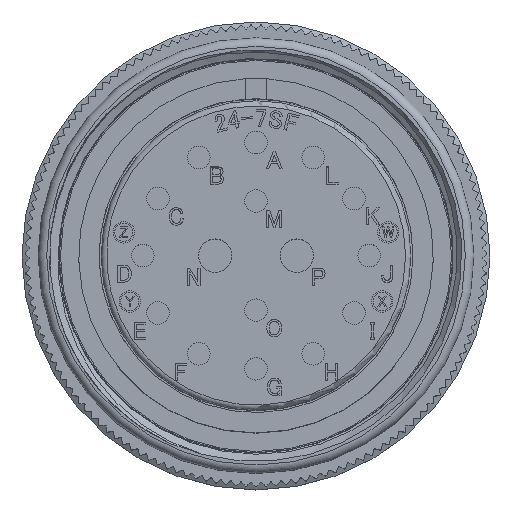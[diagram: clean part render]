
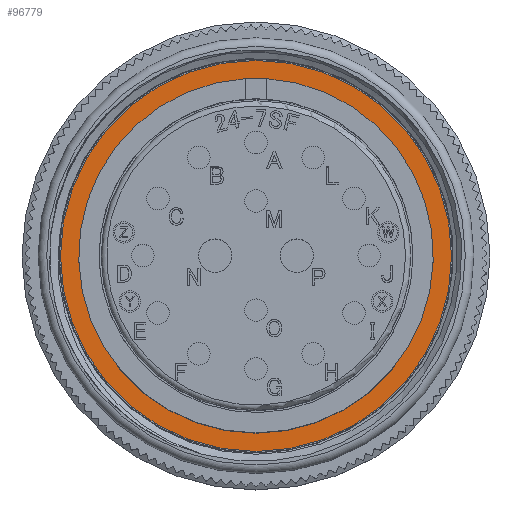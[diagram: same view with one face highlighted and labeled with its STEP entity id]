
A CAD part, top view. The second image highlights one B-rep face of the part: STEP entity #96779.
In plain terms, the highlighted planar face has unit normal (0, 0, 1).
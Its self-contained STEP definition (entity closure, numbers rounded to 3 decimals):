
#2169 = AXIS2_PLACEMENT_3D ( 'NONE', #36729, #20547, #95343 ) ;
#2284 = AXIS2_PLACEMENT_3D ( 'NONE', #48976, #7089, #23741 ) ;
#6020 = DIRECTION ( 'NONE',  ( -1., 0., 0. ) ) ;
#7089 = DIRECTION ( 'NONE',  ( 0., 0., 1. ) ) ;
#8543 = EDGE_LOOP ( 'NONE', ( #49461 ) ) ;
#8840 = EDGE_CURVE ( 'NONE', #21295, #21295, #86462, .T. ) ;
#16004 = AXIS2_PLACEMENT_3D ( 'NONE', #25940, #83712, #34220 ) ;
#17650 = EDGE_CURVE ( 'NONE', #43312, #43574, #57891, .T. ) ;
#20547 = DIRECTION ( 'NONE',  ( 0., 0., 1. ) ) ;
#21295 = VERTEX_POINT ( 'NONE', #47623 ) ;
#23741 = DIRECTION ( 'NONE',  ( 1., 0., 0. ) ) ;
#25940 = CARTESIAN_POINT ( 'NONE',  ( 0., 0., -16.66 ) ) ;
#29696 = CIRCLE ( 'NONE', #2284, 16.51 ) ;
#34220 = DIRECTION ( 'NONE',  ( 1., 0., 0. ) ) ;
#36729 = CARTESIAN_POINT ( 'NONE',  ( 0., 0., -16.66 ) ) ;
#37832 = PLANE ( 'NONE',  #78940 ) ;
#41847 = ORIENTED_EDGE ( 'NONE', *, *, #98435, .F. ) ;
#43312 = VERTEX_POINT ( 'NONE', #59115 ) ;
#43574 = VERTEX_POINT ( 'NONE', #86541 ) ;
#45088 = ORIENTED_EDGE ( 'NONE', *, *, #17650, .F. ) ;
#47623 = CARTESIAN_POINT ( 'NONE',  ( 18.21, 0., -16.66 ) ) ;
#48976 = CARTESIAN_POINT ( 'NONE',  ( 0., 0., -16.66 ) ) ;
#49461 = ORIENTED_EDGE ( 'NONE', *, *, #8840, .T. ) ;
#57891 = CIRCLE ( 'NONE', #16004, 16.51 ) ;
#59115 = CARTESIAN_POINT ( 'NONE',  ( -1., 16.48, -16.66 ) ) ;
#60999 = FACE_BOUND ( 'NONE', #92813, .T. ) ;
#71448 = DIRECTION ( 'NONE',  ( 0., 0., -1. ) ) ;
#71791 = CARTESIAN_POINT ( 'NONE',  ( 0., 18.21, -16.66 ) ) ;
#78940 = AXIS2_PLACEMENT_3D ( 'NONE', #71791, #71448, #6020 ) ;
#83712 = DIRECTION ( 'NONE',  ( 0., 0., 1. ) ) ;
#85580 = FACE_OUTER_BOUND ( 'NONE', #8543, .T. ) ;
#86462 = CIRCLE ( 'NONE', #2169, 18.21 ) ;
#86541 = CARTESIAN_POINT ( 'NONE',  ( 1., 16.48, -16.66 ) ) ;
#92813 = EDGE_LOOP ( 'NONE', ( #41847, #45088 ) ) ;
#95343 = DIRECTION ( 'NONE',  ( 1., 0., 0. ) ) ;
#96779 = ADVANCED_FACE ( 'NONE', ( #60999, #85580 ), #37832, .F. ) ;
#98435 = EDGE_CURVE ( 'NONE', #43574, #43312, #29696, .T. ) ;
